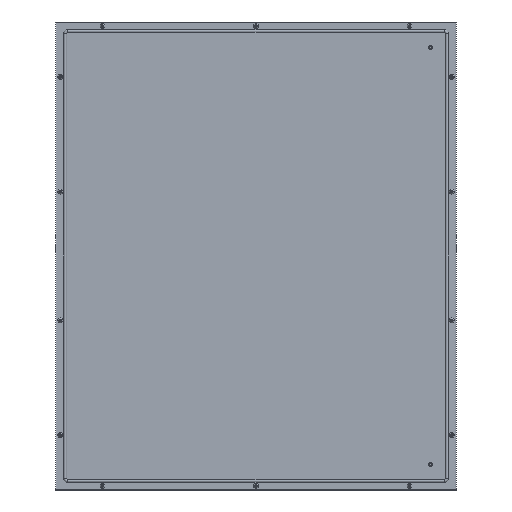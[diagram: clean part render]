
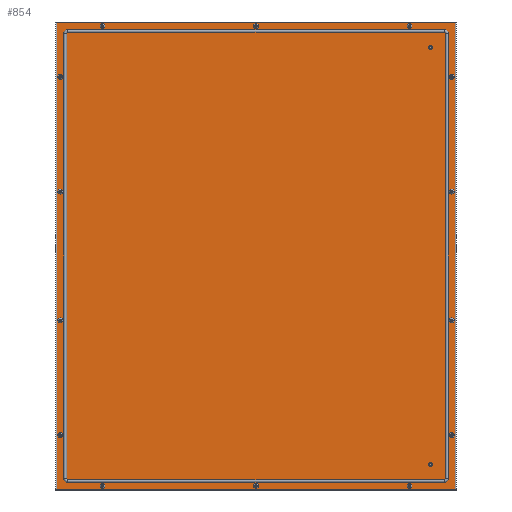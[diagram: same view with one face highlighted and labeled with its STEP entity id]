
A CAD part, left-side view. The second image highlights one B-rep face of the part: STEP entity #854.
In plain terms, the highlighted planar face has unit normal (-1, 0, 0).
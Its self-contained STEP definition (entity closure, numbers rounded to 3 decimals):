
#854=ADVANCED_FACE('',(#1245,#1247,#1249,#1251,#1253,#1255,#1257,#1259,#1261,#1263,
#1265,#1267,#1269,#1271,#1273,#1275,#1277),#1279,.F.);
#1245=FACE_BOUND('',#1246,.T.);
#1246=EDGE_LOOP('',(#3713,#3714,#3715,#3716));
#1247=FACE_BOUND('',#1248,.T.);
#1248=EDGE_LOOP('',(#3717));
#1249=FACE_BOUND('',#1250,.T.);
#1250=EDGE_LOOP('',(#3718));
#1251=FACE_BOUND('',#1252,.T.);
#1252=EDGE_LOOP('',(#3719));
#1253=FACE_BOUND('',#1254,.T.);
#1254=EDGE_LOOP('',(#3720));
#1255=FACE_BOUND('',#1256,.T.);
#1256=EDGE_LOOP('',(#3721));
#1257=FACE_BOUND('',#1258,.T.);
#1258=EDGE_LOOP('',(#3722));
#1259=FACE_BOUND('',#1260,.T.);
#1260=EDGE_LOOP('',(#3723));
#1261=FACE_BOUND('',#1262,.T.);
#1262=EDGE_LOOP('',(#3724));
#1263=FACE_BOUND('',#1264,.T.);
#1264=EDGE_LOOP('',(#3725));
#1265=FACE_BOUND('',#1266,.T.);
#1266=EDGE_LOOP('',(#3726));
#1267=FACE_BOUND('',#1268,.T.);
#1268=EDGE_LOOP('',(#3727));
#1269=FACE_BOUND('',#1270,.T.);
#1270=EDGE_LOOP('',(#3728));
#1271=FACE_BOUND('',#1272,.T.);
#1272=EDGE_LOOP('',(#3729));
#1273=FACE_BOUND('',#1274,.T.);
#1274=EDGE_LOOP('',(#3730));
#1275=FACE_BOUND('',#1276,.T.);
#1276=EDGE_LOOP('',(#3731));
#1277=FACE_BOUND('',#1278,.T.);
#1278=EDGE_LOOP('',(#3732));
#1279=PLANE('',#1280);
#1280=AXIS2_PLACEMENT_3D('',#1281,#1282,#1283);
#1281=CARTESIAN_POINT('',(0.,0.,0.));
#1282=DIRECTION('',(1.,0.,0.));
#1283=DIRECTION('',(0.,1.,0.));
#3713=ORIENTED_EDGE('',*,*,#4269,.T.);
#3714=ORIENTED_EDGE('',*,*,#4270,.T.);
#3715=ORIENTED_EDGE('',*,*,#4271,.T.);
#3716=ORIENTED_EDGE('',*,*,#4272,.T.);
#3717=ORIENTED_EDGE('',*,*,#4273,.T.);
#3718=ORIENTED_EDGE('',*,*,#4274,.T.);
#3719=ORIENTED_EDGE('',*,*,#4275,.F.);
#3720=ORIENTED_EDGE('',*,*,#4276,.F.);
#3721=ORIENTED_EDGE('',*,*,#4277,.F.);
#3722=ORIENTED_EDGE('',*,*,#4278,.F.);
#3723=ORIENTED_EDGE('',*,*,#4279,.F.);
#3724=ORIENTED_EDGE('',*,*,#4280,.F.);
#3725=ORIENTED_EDGE('',*,*,#4281,.F.);
#3726=ORIENTED_EDGE('',*,*,#4282,.F.);
#3727=ORIENTED_EDGE('',*,*,#4283,.F.);
#3728=ORIENTED_EDGE('',*,*,#4284,.F.);
#3729=ORIENTED_EDGE('',*,*,#4285,.F.);
#3730=ORIENTED_EDGE('',*,*,#4286,.F.);
#3731=ORIENTED_EDGE('',*,*,#4287,.F.);
#3732=ORIENTED_EDGE('',*,*,#4288,.F.);
#4269=EDGE_CURVE('',#4607,#4608,#4609,.T.);
#4270=EDGE_CURVE('',#4608,#4610,#4611,.T.);
#4271=EDGE_CURVE('',#4610,#4612,#4613,.T.);
#4272=EDGE_CURVE('',#4612,#4607,#4614,.T.);
#4273=EDGE_CURVE('',#4615,#4615,#4616,.F.);
#4274=EDGE_CURVE('',#4617,#4617,#4618,.F.);
#4275=EDGE_CURVE('',#4619,#4619,#4620,.T.);
#4276=EDGE_CURVE('',#4621,#4621,#4622,.F.);
#4277=EDGE_CURVE('',#4623,#4623,#4624,.F.);
#4278=EDGE_CURVE('',#4625,#4625,#4626,.F.);
#4279=EDGE_CURVE('',#4627,#4627,#4628,.F.);
#4280=EDGE_CURVE('',#4629,#4629,#4630,.F.);
#4281=EDGE_CURVE('',#4631,#4631,#4632,.F.);
#4282=EDGE_CURVE('',#4633,#4633,#4634,.F.);
#4283=EDGE_CURVE('',#4635,#4635,#4636,.F.);
#4284=EDGE_CURVE('',#4637,#4637,#4638,.F.);
#4285=EDGE_CURVE('',#4639,#4639,#4640,.F.);
#4286=EDGE_CURVE('',#4641,#4641,#4642,.F.);
#4287=EDGE_CURVE('',#4643,#4643,#4644,.F.);
#4288=EDGE_CURVE('',#4645,#4645,#4646,.F.);
#4607=VERTEX_POINT('',#5283);
#4608=VERTEX_POINT('',#5284);
#4609=LINE('',#5285,#5286);
#4610=VERTEX_POINT('',#5288);
#4611=LINE('',#5289,#5290);
#4612=VERTEX_POINT('',#5292);
#4613=LINE('',#5293,#5294);
#4614=LINE('',#5296,#5297);
#4615=VERTEX_POINT('',#5299);
#4616=CIRCLE('',#5300,5.75);
#4617=VERTEX_POINT('',#5304);
#4618=CIRCLE('',#5305,5.75);
#4619=VERTEX_POINT('',#5309);
#4620=CIRCLE('',#5310,6.954);
#4621=VERTEX_POINT('',#5314);
#4622=CIRCLE('',#5315,6.954);
#4623=VERTEX_POINT('',#5319);
#4624=CIRCLE('',#5320,6.954);
#4625=VERTEX_POINT('',#5324);
#4626=CIRCLE('',#5325,6.954);
#4627=VERTEX_POINT('',#5329);
#4628=CIRCLE('',#5330,6.954);
#4629=VERTEX_POINT('',#5334);
#4630=CIRCLE('',#5335,6.954);
#4631=VERTEX_POINT('',#5339);
#4632=CIRCLE('',#5340,6.954);
#4633=VERTEX_POINT('',#5344);
#4634=CIRCLE('',#5345,6.954);
#4635=VERTEX_POINT('',#5349);
#4636=CIRCLE('',#5350,6.954);
#4637=VERTEX_POINT('',#5354);
#4638=CIRCLE('',#5355,6.954);
#4639=VERTEX_POINT('',#5359);
#4640=CIRCLE('',#5360,6.954);
#4641=VERTEX_POINT('',#5364);
#4642=CIRCLE('',#5365,6.954);
#4643=VERTEX_POINT('',#5369);
#4644=CIRCLE('',#5370,6.954);
#4645=VERTEX_POINT('',#5374);
#4646=CIRCLE('',#5375,6.954);
#5283=CARTESIAN_POINT('',(0.,-583.7,-682.7));
#5284=CARTESIAN_POINT('',(0.,-583.7,682.7));
#5285=CARTESIAN_POINT('',(0.,-583.7,-682.7));
#5286=VECTOR('',#5287,1.);
#5287=DIRECTION('',(0.,0.,1.));
#5288=CARTESIAN_POINT('',(0.,583.7,682.7));
#5289=CARTESIAN_POINT('',(0.,-583.7,682.7));
#5290=VECTOR('',#5291,1.);
#5291=DIRECTION('',(0.,1.,0.));
#5292=CARTESIAN_POINT('',(0.,583.7,-682.7));
#5293=CARTESIAN_POINT('',(0.,583.7,682.7));
#5294=VECTOR('',#5295,1.);
#5295=DIRECTION('',(0.,0.,-1.));
#5296=CARTESIAN_POINT('',(0.,583.7,-682.7));
#5297=VECTOR('',#5298,1.);
#5298=DIRECTION('',(0.,-1.,0.));
#5299=CARTESIAN_POINT('',(0.,-517.25,610.5));
#5300=AXIS2_PLACEMENT_3D('',#5301,#5302,#5303);
#5301=CARTESIAN_POINT('',(0.,-511.5,610.5));
#5302=DIRECTION('',(-1.,0.,0.));
#5303=DIRECTION('',(0.,-1.,0.));
#5304=CARTESIAN_POINT('',(0.,-517.25,-610.5));
#5305=AXIS2_PLACEMENT_3D('',#5306,#5307,#5308);
#5306=CARTESIAN_POINT('',(0.,-511.5,-610.5));
#5307=DIRECTION('',(-1.,0.,0.));
#5308=DIRECTION('',(0.,-1.,0.));
#5309=CARTESIAN_POINT('',(0.,-566.546,525.));
#5310=AXIS2_PLACEMENT_3D('',#5311,#5312,#5313);
#5311=CARTESIAN_POINT('',(0.,-573.5,525.));
#5312=DIRECTION('',(-1.,0.,0.));
#5313=DIRECTION('',(0.,1.,0.));
#5314=CARTESIAN_POINT('',(0.,-566.546,-525.));
#5315=AXIS2_PLACEMENT_3D('',#5316,#5317,#5318);
#5316=CARTESIAN_POINT('',(0.,-573.5,-525.));
#5317=DIRECTION('',(1.,0.,0.));
#5318=DIRECTION('',(0.,1.,0.));
#5319=CARTESIAN_POINT('',(0.,580.454,-525.));
#5320=AXIS2_PLACEMENT_3D('',#5321,#5322,#5323);
#5321=CARTESIAN_POINT('',(0.,573.5,-525.));
#5322=DIRECTION('',(1.,0.,0.));
#5323=DIRECTION('',(0.,1.,0.));
#5324=CARTESIAN_POINT('',(0.,580.454,525.));
#5325=AXIS2_PLACEMENT_3D('',#5326,#5327,#5328);
#5326=CARTESIAN_POINT('',(0.,573.5,525.));
#5327=DIRECTION('',(1.,0.,0.));
#5328=DIRECTION('',(0.,1.,0.));
#5329=CARTESIAN_POINT('',(0.,-566.546,188.5));
#5330=AXIS2_PLACEMENT_3D('',#5331,#5332,#5333);
#5331=CARTESIAN_POINT('',(0.,-573.5,188.5));
#5332=DIRECTION('',(1.,0.,0.));
#5333=DIRECTION('',(0.,1.,0.));
#5334=CARTESIAN_POINT('',(0.,-566.546,-188.5));
#5335=AXIS2_PLACEMENT_3D('',#5336,#5337,#5338);
#5336=CARTESIAN_POINT('',(0.,-573.5,-188.5));
#5337=DIRECTION('',(1.,0.,0.));
#5338=DIRECTION('',(0.,1.,0.));
#5339=CARTESIAN_POINT('',(0.,580.454,188.5));
#5340=AXIS2_PLACEMENT_3D('',#5341,#5342,#5343);
#5341=CARTESIAN_POINT('',(0.,573.5,188.5));
#5342=DIRECTION('',(1.,0.,0.));
#5343=DIRECTION('',(0.,1.,0.));
#5344=CARTESIAN_POINT('',(0.,580.454,-188.5));
#5345=AXIS2_PLACEMENT_3D('',#5346,#5347,#5348);
#5346=CARTESIAN_POINT('',(0.,573.5,-188.5));
#5347=DIRECTION('',(1.,0.,0.));
#5348=DIRECTION('',(0.,1.,0.));
#5349=CARTESIAN_POINT('',(0.,-443.046,-673.5));
#5350=AXIS2_PLACEMENT_3D('',#5351,#5352,#5353);
#5351=CARTESIAN_POINT('',(0.,-450.,-673.5));
#5352=DIRECTION('',(1.,0.,0.));
#5353=DIRECTION('',(0.,1.,0.));
#5354=CARTESIAN_POINT('',(0.,-443.046,673.5));
#5355=AXIS2_PLACEMENT_3D('',#5356,#5357,#5358);
#5356=CARTESIAN_POINT('',(0.,-450.,673.5));
#5357=DIRECTION('',(1.,0.,0.));
#5358=DIRECTION('',(0.,1.,0.));
#5359=CARTESIAN_POINT('',(0.,456.954,-673.5));
#5360=AXIS2_PLACEMENT_3D('',#5361,#5362,#5363);
#5361=CARTESIAN_POINT('',(0.,450.,-673.5));
#5362=DIRECTION('',(1.,0.,0.));
#5363=DIRECTION('',(0.,1.,0.));
#5364=CARTESIAN_POINT('',(0.,456.954,673.5));
#5365=AXIS2_PLACEMENT_3D('',#5366,#5367,#5368);
#5366=CARTESIAN_POINT('',(0.,450.,673.5));
#5367=DIRECTION('',(1.,0.,0.));
#5368=DIRECTION('',(0.,1.,0.));
#5369=CARTESIAN_POINT('',(0.,6.954,673.5));
#5370=AXIS2_PLACEMENT_3D('',#5371,#5372,#5373);
#5371=CARTESIAN_POINT('',(0.,0.,673.5));
#5372=DIRECTION('',(1.,0.,0.));
#5373=DIRECTION('',(0.,1.,0.));
#5374=CARTESIAN_POINT('',(0.,6.954,-673.5));
#5375=AXIS2_PLACEMENT_3D('',#5376,#5377,#5378);
#5376=CARTESIAN_POINT('',(0.,0.,-673.5));
#5377=DIRECTION('',(1.,0.,0.));
#5378=DIRECTION('',(0.,1.,0.));
